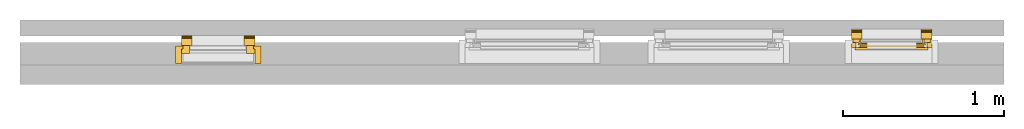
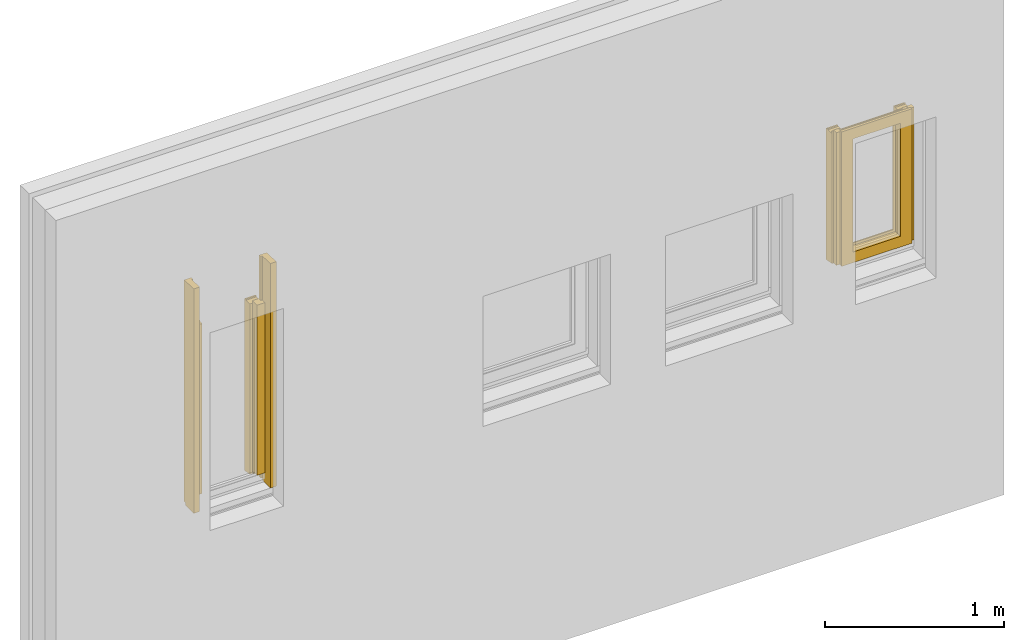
# One storey, part 4 of 4: 7 windows.
"""IFC2X3 building model written with IfcOpenShell, lengths in millimetres."""

from ifc_helpers import new_model, entity, si_unit, converted_unit, derived_unit, direction, frame, origin, place, context, subcontext, project, spatial, faceted_brep, source, transform, mapped, material, type_object, type_shapes, element, save


model = new_model("IFC2X3")

# Units and contexts
model_context = context("Model", 3, precision=0.01, world=origin(), true_north=direction((6.12303176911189e-17, 1.0)))
body_context = subcontext(model_context, "Body", "Model", "MODEL_VIEW")
ifc_project = project(units=[si_unit("LENGTHUNIT", "METRE", prefix="MILLI"), si_unit("AREAUNIT", "SQUARE_METRE"), si_unit("VOLUMEUNIT", "CUBIC_METRE"), converted_unit("PLANEANGLEUNIT", "DEGREE", entity("IfcRatioMeasure", 0.0174532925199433), si_unit("PLANEANGLEUNIT", "RADIAN"), dimensions=[0, 0, 0, 0, 0, 0, 0]), si_unit("MASSUNIT", "GRAM", prefix="KILO"), derived_unit("MASSDENSITYUNIT", [(si_unit("MASSUNIT", "GRAM", prefix="KILO"), 1), (si_unit("LENGTHUNIT", "METRE"), -3)]), si_unit("TIMEUNIT", "SECOND"), si_unit("FREQUENCYUNIT", "HERTZ"), si_unit("THERMODYNAMICTEMPERATUREUNIT", "DEGREE_CELSIUS"), derived_unit("THERMALTRANSMITTANCEUNIT", [(si_unit("MASSUNIT", "GRAM", prefix="KILO"), 1), (si_unit("THERMODYNAMICTEMPERATUREUNIT", "KELVIN"), -1), (si_unit("TIMEUNIT", "SECOND"), -3)]), derived_unit("VOLUMETRICFLOWRATEUNIT", [(si_unit("LENGTHUNIT", "METRE"), 3), (si_unit("TIMEUNIT", "SECOND"), -1)]), si_unit("ELECTRICCURRENTUNIT", "AMPERE"), si_unit("ELECTRICVOLTAGEUNIT", "VOLT"), si_unit("POWERUNIT", "WATT"), si_unit("FORCEUNIT", "NEWTON", prefix="KILO"), si_unit("ILLUMINANCEUNIT", "LUX"), si_unit("LUMINOUSFLUXUNIT", "LUMEN"), si_unit("LUMINOUSINTENSITYUNIT", "CANDELA"), derived_unit("USERDEFINED", [(si_unit("MASSUNIT", "GRAM", prefix="KILO"), -1), (si_unit("LENGTHUNIT", "METRE"), -2), (si_unit("TIMEUNIT", "SECOND"), 3), (si_unit("LUMINOUSFLUXUNIT", "LUMEN"), 1)]), derived_unit("LINEARVELOCITYUNIT", [(si_unit("LENGTHUNIT", "METRE"), 1), (si_unit("TIMEUNIT", "SECOND"), -1)]), si_unit("PRESSUREUNIT", "PASCAL"), derived_unit("USERDEFINED", [(si_unit("LENGTHUNIT", "METRE"), -2), (si_unit("MASSUNIT", "GRAM", prefix="KILO"), 1), (si_unit("TIMEUNIT", "SECOND"), -2)])], contexts=[model_context])

# Site, building, storey
site_placement = place(None, origin())
site = spatial("IfcSite", under=ifc_project, at=site_placement, Name="Default", CompositionType="ELEMENT")
building_placement = place(site_placement, origin())
building = spatial("IfcBuilding", under=site, at=building_placement, CompositionType="ELEMENT")
storey_placement = place(building_placement, origin())
storey = spatial("IfcBuildingStorey", under=building, at=storey_placement, Name="Level 1", CompositionType="ELEMENT", Elevation=0.0)

# Windows
ifc_material_1 = material(Name="NLRS_i3_meranti_geschilderd_RAL7006")
window_style_1 = type_object("IfcWindowStyle", Name="dv-bis67x114", ConstructionType="NOTDEFINED", OperationType="NOTDEFINED", ParameterTakesPrecedence=False, Sizeable=False, material=ifc_material_1)
shared_shape_1 = source(origin(), body_context, "Body", "Brep", [
    faceted_brep([(50.0, 84.0, 950.0), (50.0, 62.0, 950.0), (50.0, 62.0, 933.0), (50.0, 62.0, 49.2361111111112), (50.0, 72.0, 51.0), (50.0, 72.0, 67.0), (50.0, 84.0, 67.0), (67.0, 62.0, 933.0), (67.0, 62.0, 49.2361111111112), (67.0, 20.0, 933.0), (67.0, 17.0, 939.0), (67.0, 10.0, 939.0), (67.0, 7.0, 933.0), (67.0, 0.0, 933.0), (67.0, 0.0, 38.3000000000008), (0.0, 0.0, 933.0), (0.0, 0.0, 38.3000000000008), (0.0, 62.0, 950.0), (0.0, 65.0, 950.0), (0.0, 65.0, 49.7652777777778), (0.0, 7.0, 933.0), (0.0, 10.0, 939.0), (0.0, 17.0, 939.0), (0.0, 20.0, 933.0), (0.0, 62.0, 933.0), (9.0, 65.0, 950.0), (9.0, 65.0, 49.7652777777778), (9.0, 84.0, 950.0), (9.0, 84.0, 67.0), (9.0, 72.0, 67.0), (9.0, 72.0, 51.0), (30.0, 84.0, 950.0), (30.0, 84.0, 970.0), (0.0, 84.0, 970.0), (0.0, 84.0, 67.0), (0.0, 114.0, 970.0), (0.0, 114.0, 67.0), (30.0, 114.0, 970.0), (30.0, 114.0, 67.0), (30.0, 84.0, 67.0)], [[[0, 1, 2, 3, 4, 5, 6]], [[2, 7, 8, 3]], [[7, 9, 10, 11, 12, 13, 14, 8]], [[13, 15, 16, 14]], [[17, 18, 19, 16, 15, 20, 21, 22, 23, 24]], [[18, 25, 26, 19]], [[25, 27, 28, 29, 30, 26]], [[27, 31, 32, 33, 34, 28]], [[33, 35, 36, 34]], [[35, 37, 38, 36]], [[30, 4, 3, 8, 14, 16, 19, 26]], [[4, 30, 29, 5]], [[5, 29, 28, 34, 36, 38, 39, 6]], [[31, 0, 6, 39]], [[37, 32, 31, 39, 38]], [[35, 33, 32, 37]], [[17, 1, 0, 31, 27, 25, 18]], [[1, 17, 24, 2]], [[23, 9, 7, 2, 24]], [[9, 23, 22, 10]], [[10, 22, 21, 11]], [[11, 21, 20, 12]], [[12, 20, 15, 13]]]),
])
type_shapes(window_style_1, [shared_shape_1])
window_1_placement = place(storey_placement, frame((3042.97327063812, 5914.39645578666, 1685.12752334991), z_axis=(0.0, 0.0, 1.0), x_axis=(-1.0, 0.0, 0.0)))
element("IfcWindow", 1, at=window_1_placement, inside=storey, type_object=window_style_1, material=ifc_material_1, Name="NLRS_30_WIN_zijstijl_sh_gen_TOBA-JM:dv-bis67x114", ObjectType="NLRS_30_WIN_zijstijl_sh_gen_TOBA-JM:dv-bis67x114", OverallHeight=961.699999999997, OverallWidth=67.0000000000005, context=body_context, shape_type="MappedRepresentation", body=[
    mapped(shared_shape_1, transform((0.0, 0.0, 0.0), scale=1.0)),
])
window_style_2 = type_object("IfcWindowStyle", Name="dv-bis67x114", ConstructionType="NOTDEFINED", OperationType="NOTDEFINED", ParameterTakesPrecedence=False, Sizeable=False, material=ifc_material_1)
shared_shape_2 = source(origin(), body_context, "Body", "Brep", [
    faceted_brep([(50.0, -84.0, 950.0), (50.0, -84.0, 67.0), (50.0, -72.0, 67.0), (50.0, -72.0, 51.0), (50.0, -62.0, 49.2361111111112), (50.0, -62.0, 933.0), (50.0, -62.0, 950.0), (67.0, -62.0, 49.2361111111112), (67.0, -62.0, 933.0), (67.0, 0.0, 38.3000000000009), (67.0, 0.0, 933.0), (67.0, -7.0, 933.0), (67.0, -10.0, 939.0), (67.0, -17.0, 939.0), (67.0, -20.0, 933.0), (0.0, 0.0, 38.3000000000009), (0.0, 0.0, 933.0), (0.0, -62.0, 950.0), (0.0, -62.0, 933.0), (0.0, -20.0, 933.0), (0.0, -17.0, 939.0), (0.0, -10.0, 939.0), (0.0, -7.0, 933.0), (0.0, -65.0, 49.7652777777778), (0.0, -65.0, 950.0), (9.0, -65.0, 49.7652777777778), (9.0, -65.0, 950.0), (9.0, -72.0, 51.0), (9.0, -72.0, 67.0), (9.0, -84.0, 67.0), (9.0, -84.0, 950.0), (0.0, -84.0, 67.0), (0.0, -84.0, 970.0), (30.0, -84.0, 970.0), (30.0, -84.0, 950.0), (0.0, -114.0, 67.0), (0.0, -114.0, 970.0), (30.0, -114.0, 67.0), (30.0, -114.0, 970.0), (30.0, -84.0, 67.0)], [[[0, 1, 2, 3, 4, 5, 6]], [[5, 4, 7, 8]], [[8, 7, 9, 10, 11, 12, 13, 14]], [[10, 9, 15, 16]], [[17, 18, 19, 20, 21, 22, 16, 15, 23, 24]], [[24, 23, 25, 26]], [[26, 25, 27, 28, 29, 30]], [[30, 29, 31, 32, 33, 34]], [[32, 31, 35, 36]], [[36, 35, 37, 38]], [[27, 25, 23, 15, 9, 7, 4, 3]], [[3, 2, 28, 27]], [[2, 1, 39, 37, 35, 31, 29, 28]], [[34, 39, 1, 0]], [[38, 37, 39, 34, 33]], [[36, 38, 33, 32]], [[17, 24, 26, 30, 34, 0, 6]], [[6, 5, 18, 17]], [[19, 18, 5, 8, 14]], [[14, 13, 20, 19]], [[13, 12, 21, 20]], [[12, 11, 22, 21]], [[11, 10, 16, 22]]]),
])
type_shapes(window_style_2, [shared_shape_2])
window_2_placement = place(storey_placement, frame((2542.97327063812, 5914.39645578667, 1685.12752334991)))
element("IfcWindow", 2, at=window_2_placement, inside=storey, type_object=window_style_2, material=ifc_material_1, Name="NLRS_30_WIN_zijstijl_sh_gen_TOBA-JM:dv-bis67x114", ObjectType="NLRS_30_WIN_zijstijl_sh_gen_TOBA-JM:dv-bis67x114", OverallHeight=961.7, OverallWidth=67.0000000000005, context=body_context, shape_type="MappedRepresentation", body=[
    mapped(shared_shape_2, transform((0.0, 0.0, 0.0), scale=1.0)),
])
ifc_material_2 = material(Name="NLRS_i3_meranti_draaiende_delen_geschilderd_creme_RAL7006")
window_style_3 = type_object("IfcWindowStyle", Name="68x90", ConstructionType="NOTDEFINED", OperationType="NOTDEFINED", ParameterTakesPrecedence=False, Sizeable=False, material=ifc_material_2)
shared_shape_3 = source(origin(), body_context, "Body", "Brep", [
    faceted_brep([(226.0, 68.0, 909.0), (226.0, 52.0, 909.0), (226.0, 52.0, -6.0), (226.0, 68.0, -6.0), (226.0, 68.0, -5.0), (226.0, 68.0, 84.0), (-226.0, 52.0, -6.0), (-226.0, 52.0, 909.0), (-208.0, 52.0, 891.0), (208.0, 52.0, 891.0), (208.0, 52.0, 12.0), (-208.0, 52.0, 12.0), (-226.0, 68.0, -6.0), (-226.0, 68.0, 909.0), (-226.0, 68.0, -5.0), (-226.0, 68.0, 84.0), (153.0, 68.0, 836.0), (-153.0, 68.0, 836.0), (-153.0, 68.0, 67.0), (153.0, 68.0, 67.0), (153.0, 13.0, 836.0), (153.0, 13.0, 67.0), (-153.0, 13.0, 67.0), (-153.0, 13.0, 836.0), (136.0, 13.0, 819.0), (-136.0, 13.0, 819.0), (-136.0, 13.0, 84.0), (136.0, 13.0, 84.0), (140.0, 0.0, 823.0), (140.0, 0.0, 80.0), (-140.0, 0.0, 80.0), (196.0, 0.0, 27.0), (196.0, 0.0, 879.0), (-196.0, 0.0, 879.0), (-196.0, 0.0, 27.0), (-140.0, 0.0, 823.0), (196.0, 5.0, 879.0), (196.0, 4.0, 27.0), (196.0, 4.0, 15.0), (196.0, 5.0, 15.0), (-196.0, 4.0, 27.0), (-196.0, 4.0, 15.0), (-192.0, 9.0, 15.0), (192.0, 9.0, 15.0), (192.0, 6.0, 15.0), (-196.0, 5.0, 15.0), (-192.0, 6.0, 15.0), (192.0, 6.0, 875.0), (192.0, 16.0, 875.0), (192.0, 10.0, 19.0), (192.0, 16.0, 19.0), (-192.0, 10.0, 19.0), (-192.0, 16.0, 19.0), (196.0, 17.0, 879.0), (196.0, 17.0, 15.0), (-196.0, 17.0, 15.0), (196.0, 22.0, 879.0), (196.0, 22.0, 15.0), (-196.0, 22.0, 15.0), (-188.0, 22.0, 23.0), (188.0, 22.0, 23.0), (188.0, 22.0, 871.0), (-188.0, 22.0, 871.0), (-196.0, 22.0, 879.0), (188.0, 27.0, 871.0), (188.0, 27.0, 23.0), (-188.0, 27.0, 23.0), (208.0, 27.0, 12.0), (208.0, 27.0, 891.0), (-208.0, 27.0, 891.0), (-208.0, 27.0, 12.0), (-188.0, 27.0, 871.0), (208.0, 34.5, 891.0), (208.0, 34.5000000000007, 12.0), (-208.0, 34.5000000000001, 12.0), (-205.500000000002, 34.5, 14.5), (205.500000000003, 34.5000000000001, 14.5), (205.500000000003, 34.5, 888.499999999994), (-205.5, 34.5, 888.499999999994), (-208.0, 34.5, 891.0), (205.500000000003, 36.5, 888.499999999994), (205.500000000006, 36.5000000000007, 14.5), (-205.500000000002, 36.5000000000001, 14.5), (-196.0, 36.5, 24.0), (196.0, 36.5000000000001, 24.0), (196.0, 36.5, 879.0), (-196.0, 36.5, 879.0), (-205.500000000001, 36.5, 888.499999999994), (196.0, 49.0, 879.0), (196.0, 49.0, 24.0), (-196.0, 49.0, 24.0), (205.500000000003, 49.0, 14.5), (205.500000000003, 49.0, 888.499999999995), (-205.500000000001, 49.0, 888.499999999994), (-205.500000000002, 49.0, 14.5), (-196.0, 49.0, 879.0), (205.500000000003, 51.0, 888.499999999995), (205.500000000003, 51.0, 14.5), (-205.500000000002, 51.0, 14.5), (208.0, 51.0, 12.0), (208.0, 51.0, 891.0), (-208.0, 51.0, 891.0), (-208.0, 51.0, 12.0), (-205.500000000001, 51.0, 888.499999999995), (-196.0, 5.0, 879.0), (-192.0, 6.0, 875.0), (-192.0, 16.0, 875.0), (-196.0, 17.0, 879.0)], [[[0, 1, 2, 3, 4, 5]], [[6, 2, 1, 7], [8, 9, 10, 11]], [[6, 12, 3, 2]], [[13, 0, 5, 4, 3, 12, 14, 15], [16, 17, 18, 19]], [[20, 16, 19, 21]], [[19, 18, 22, 21]], [[23, 20, 21, 22], [24, 25, 26, 27]], [[28, 24, 27, 29]], [[27, 26, 30, 29]], [[31, 32, 33, 34], [35, 28, 29, 30]], [[36, 32, 31, 37, 38, 39]], [[31, 34, 40, 37]], [[41, 38, 37, 40]], [[42, 43, 44, 39, 38, 41, 45, 46]], [[47, 36, 39, 44]], [[48, 47, 44, 43, 49, 50]], [[51, 49, 43, 42]], [[52, 50, 49, 51]], [[53, 48, 50, 54]], [[55, 54, 50, 52]], [[56, 53, 54, 57]], [[58, 57, 54, 55]], [[59, 60, 61, 62], [58, 63, 56, 57]], [[64, 61, 60, 65]], [[66, 65, 60, 59]], [[67, 68, 69, 70], [66, 71, 64, 65]], [[72, 68, 67, 73]], [[74, 73, 67, 70]], [[75, 76, 77, 78], [74, 79, 72, 73]], [[80, 77, 76, 81]], [[82, 81, 76, 75]], [[83, 84, 85, 86], [82, 87, 80, 81]], [[88, 85, 84, 89]], [[90, 89, 84, 83]], [[91, 92, 93, 94], [90, 95, 88, 89]], [[96, 92, 91, 97]], [[98, 97, 91, 94]], [[99, 100, 101, 102], [98, 103, 96, 97]], [[9, 100, 99, 10]], [[11, 10, 99, 102]], [[102, 101, 8, 11]], [[6, 7, 13, 15, 14, 12]], [[17, 23, 22, 18]], [[25, 35, 30, 26]], [[33, 104, 45, 41, 40, 34]], [[45, 104, 105, 46]], [[46, 105, 106, 52, 51, 42]], [[52, 106, 107, 55]], [[55, 107, 63, 58]], [[59, 62, 71, 66]], [[70, 69, 79, 74]], [[75, 78, 87, 82]], [[83, 86, 95, 90]], [[94, 93, 103, 98]], [[1, 0, 13, 7]], [[16, 20, 23, 17]], [[24, 28, 35, 25]], [[32, 36, 104, 33]], [[36, 47, 105, 104]], [[47, 48, 106, 105]], [[48, 53, 107, 106]], [[53, 56, 63, 107]], [[61, 64, 71, 62]], [[68, 72, 79, 69]], [[77, 80, 87, 78]], [[85, 88, 95, 86]], [[92, 96, 103, 93]], [[100, 9, 8, 101]]], outer=[[True], [True, False], [True], [True, False], [True], [True], [True, False], [True], [True], [True, False], [True], [True], [True], [True], [True], [True], [True], [True], [True], [True], [True], [True], [False, True], [True], [True], [True, False], [True], [True], [False, True], [True], [True], [False, True], [True], [True], [True, False], [True], [True], [True, False], [True], [True], [True], [True], [True], [True], [True], [True], [True], [True], [True], [True], [True], [True], [True], [True], [True], [True], [True], [True], [True], [True], [True], [True], [True], [True], [True], [True], [True], [True]]),
])
type_shapes(window_style_3, [shared_shape_3])
window_3_placement = place(storey_placement, frame((2792.97327063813, 5852.39645578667, 1752.12752334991), z_axis=(0.0, 0.0, 1.0), x_axis=(-1.0, 0.0, 0.0)))
element("IfcWindow", 3, at=window_3_placement, inside=storey, type_object=window_style_3, material=ifc_material_2, Name="NLRS_30_WIN_raamhout_sh_gen_TOBA-JM:68x90", ObjectType="NLRS_30_WIN_raamhout_sh_gen_TOBA-JM:68x90", OverallHeight=914.999999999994, OverallWidth=452.000000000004, context=body_context, shape_type="MappedRepresentation", body=[
    mapped(shared_shape_3, transform((0.0, 0.0, 0.0), scale=1.0)),
])
window_style_4 = type_object("IfcWindowStyle", Name="Type", ConstructionType="NOTDEFINED", OperationType="NOTDEFINED", ParameterTakesPrecedence=False, Sizeable=False, material=ifc_material_1)
shared_shape_4 = source(origin(), body_context, "Body", "Brep", [
    faceted_brep([(50.0, 114.0, 1224.4), (50.0, 62.0, 1224.4), (50.0, 62.0, 1207.4), (50.0, 62.0, 49.2361111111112), (50.0, 72.0, 51.0), (50.0, 72.0, 67.0), (50.0, 114.0, 67.0), (67.0, 62.0, 1207.4), (67.0, 62.0, 49.2361111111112), (67.0, 20.0, 1207.4), (67.0, 17.0, 1213.4), (67.0, 10.0, 1213.4), (67.0, 7.0, 1207.4), (67.0, 0.0, 1207.4), (67.0, 0.0, 38.3000000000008), (0.0, 0.0, 1207.4), (0.0, 0.0, 38.3000000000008), (0.0, 62.0, 1224.4), (0.0, 65.0, 1224.4), (0.0, 65.0, 49.7652777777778), (0.0, 7.0, 1207.4), (0.0, 10.0, 1213.4), (0.0, 17.0, 1213.4), (0.0, 20.0, 1207.4), (0.0, 62.0, 1207.4), (9.0, 65.0, 1224.4), (9.0, 65.0, 49.7652777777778), (9.0, 84.0, 1224.4), (9.0, 84.0, 67.0), (9.0, 72.0, 67.0), (9.0, 72.0, 51.0), (0.0, 84.0, 1224.4), (0.0, 84.0, 67.0), (0.0, 114.0, 1224.4), (0.0, 114.0, 67.0)], [[[0, 1, 2, 3, 4, 5, 6]], [[2, 7, 8, 3]], [[7, 9, 10, 11, 12, 13, 14, 8]], [[13, 15, 16, 14]], [[17, 18, 19, 16, 15, 20, 21, 22, 23, 24]], [[18, 25, 26, 19]], [[25, 27, 28, 29, 30, 26]], [[27, 31, 32, 28]], [[31, 33, 34, 32]], [[33, 0, 6, 34]], [[30, 4, 3, 8, 14, 16, 19, 26]], [[4, 30, 29, 5]], [[5, 29, 28, 32, 34, 6]], [[17, 1, 0, 33, 31, 27, 25, 18]], [[1, 17, 24, 2]], [[23, 9, 7, 2, 24]], [[9, 23, 22, 10]], [[10, 22, 21, 11]], [[11, 21, 20, 12]], [[12, 20, 15, 13]]]),
])
type_shapes(window_style_4, [shared_shape_4])
window_4_placement = place(storey_placement, frame((-1155.38435228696, 5876.39645578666, 1592.60000000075), z_axis=(0.0, 0.0, 1.0), x_axis=(-1.0, 0.0, 0.0)))
element("IfcWindow", 4, at=window_4_placement, inside=storey, type_object=window_style_4, material=ifc_material_1, Name="NLRS_30_MC_zijstijll_vg_bis_67x114:Type", ObjectType="NLRS_30_MC_zijstijll_vg_bis_67x114:Type", OverallHeight=1274.4, OverallWidth=67.0000000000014, context=body_context, shape_type="MappedRepresentation", body=[
    mapped(shared_shape_4, transform((0.0, 0.0, 0.0), scale=1.0)),
])
window_style_5 = type_object("IfcWindowStyle", Name="Type", ConstructionType="NOTDEFINED", OperationType="NOTDEFINED", ParameterTakesPrecedence=False, Sizeable=False, material=ifc_material_1)
shared_shape_5 = source(origin(), body_context, "Body", "Brep", [
    faceted_brep([(50.0, -114.0, 1224.4), (50.0, -114.0, 67.0), (50.0, -72.0, 67.0), (50.0, -72.0, 51.0), (50.0, -62.0, 49.2361111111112), (50.0, -62.0, 1207.4), (50.0, -62.0, 1224.4), (67.0, -62.0, 49.2361111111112), (67.0, -62.0, 1207.4), (67.0, 0.0, 38.3000000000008), (67.0, 0.0, 1207.4), (67.0, -7.0, 1207.4), (67.0, -10.0, 1213.4), (67.0, -17.0, 1213.4), (67.0, -20.0, 1207.4), (0.0, 0.0, 38.3000000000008), (0.0, 0.0, 1207.4), (0.0, -62.0, 1224.4), (0.0, -62.0, 1207.4), (0.0, -20.0, 1207.4), (0.0, -17.0, 1213.4), (0.0, -10.0, 1213.4), (0.0, -7.0, 1207.4), (0.0, -65.0, 49.7652777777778), (0.0, -65.0, 1224.4), (9.0, -65.0, 49.7652777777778), (9.0, -65.0, 1224.4), (9.0, -72.0, 51.0), (9.0, -72.0, 67.0), (9.0, -84.0, 67.0), (9.0, -84.0, 1224.4), (0.0, -84.0, 67.0), (0.0, -84.0, 1224.4), (0.0, -114.0, 67.0), (0.0, -114.0, 1224.4)], [[[0, 1, 2, 3, 4, 5, 6]], [[5, 4, 7, 8]], [[8, 7, 9, 10, 11, 12, 13, 14]], [[10, 9, 15, 16]], [[17, 18, 19, 20, 21, 22, 16, 15, 23, 24]], [[24, 23, 25, 26]], [[26, 25, 27, 28, 29, 30]], [[30, 29, 31, 32]], [[32, 31, 33, 34]], [[34, 33, 1, 0]], [[27, 25, 23, 15, 9, 7, 4, 3]], [[3, 2, 28, 27]], [[2, 1, 33, 31, 29, 28]], [[17, 24, 26, 30, 32, 34, 0, 6]], [[6, 5, 18, 17]], [[19, 18, 5, 8, 14]], [[14, 13, 20, 19]], [[13, 12, 21, 20]], [[12, 11, 22, 21]], [[11, 10, 16, 22]]]),
])
type_shapes(window_style_5, [shared_shape_5])
window_5_placement = place(storey_placement, frame((-1610.38435228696, 5876.39645578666, 1592.60000000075)))
element("IfcWindow", 5, at=window_5_placement, inside=storey, type_object=window_style_5, material=ifc_material_1, Name="NLRS_30_MC_zijstijll_vg_bis_67x114:Type", ObjectType="NLRS_30_MC_zijstijll_vg_bis_67x114:Type", OverallHeight=1274.40000000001, OverallWidth=67.0000000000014, context=body_context, shape_type="MappedRepresentation", body=[
    mapped(shared_shape_5, transform((0.0, 0.0, 0.0), scale=1.0)),
])
ifc_material_3 = material(Name="NLRS_i3_hout_vuren_generiek")
window_style_6 = type_object("IfcWindowStyle", Name="Type", ConstructionType="NOTDEFINED", OperationType="NOTDEFINED", ParameterTakesPrecedence=False, Sizeable=False, material=ifc_material_3)
shared_shape_6 = source(origin(), body_context, "Body", "Brep", [
    faceted_brep([(-38.0, 110.0, 0.0), (0.0, 110.0, 0.0), (0.0, 19.0, 0.0), (-38.0, 19.0, 0.0), (-38.0, 110.0, 1527.4), (0.0, 110.0, 1527.4), (0.0, 100.459431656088, 1527.4), (0.0, 19.0, 1523.13089208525), (0.0, 19.0, 15.0), (9.0, 19.0, 15.0), (9.0, 19.0, 1523.13089208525), (9.0, 0.0, 15.0), (9.0, 0.0, 1522.13514427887), (-38.0, 0.0, 15.0), (-38.0, 0.0, 1522.13514427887), (-38.0, 19.0, 15.0), (-38.0, 100.459431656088, 1527.4)], [[[0, 1, 2, 3]], [[1, 0, 4, 5]], [[2, 1, 5, 6, 7, 8]], [[9, 8, 7, 10]], [[11, 9, 10, 12]], [[13, 11, 12, 14]], [[4, 0, 3, 15, 13, 14, 16]], [[5, 4, 16, 6]], [[8, 15, 3, 2]], [[15, 8, 9, 11, 13]], [[6, 16, 14, 12, 10, 7]]]),
])
type_shapes(window_style_6, [shared_shape_6])
window_6_placement = place(storey_placement, frame((-1155.38435228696, 5811.39645578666, 1592.60000000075), z_axis=(0.0, 0.0, 1.0), x_axis=(-1.0, 0.0, 0.0)))
element("IfcWindow", 6, at=window_6_placement, inside=storey, type_object=window_style_6, material=ifc_material_3, Name="NLRS_30_MC_spouwlat_zijstijll_47x110:Type", ObjectType="NLRS_30_MC_spouwlat_zijstijll_47x110:Type", OverallHeight=1527.4, OverallWidth=105.0, context=body_context, shape_type="MappedRepresentation", body=[
    mapped(shared_shape_6, transform((0.0, 0.0, 0.0), scale=1.0)),
])
window_style_7 = type_object("IfcWindowStyle", Name="Type", ConstructionType="NOTDEFINED", OperationType="NOTDEFINED", ParameterTakesPrecedence=False, Sizeable=False, material=ifc_material_3)
shared_shape_7 = source(origin(), body_context, "Body", "Brep", [
    faceted_brep([(-38.0, -110.0, 0.0), (-38.0, -19.0, 0.0), (0.0, -19.0, 0.0), (0.0, -110.0, 0.0), (0.0, -110.0, 1527.40000000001), (-38.0, -110.0, 1527.40000000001), (0.0, -19.0, 15.0), (0.0, -19.0, 1523.13089208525), (0.0, -100.459431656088, 1527.40000000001), (9.0, -19.0, 15.0), (9.0, -19.0, 1523.13089208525), (9.0, 0.0, 15.0), (9.0, 0.0, 1522.13514427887), (-38.0, 0.0, 15.0), (-38.0, 0.0, 1522.13514427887), (-38.0, -100.459431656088, 1527.40000000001), (-38.0, -19.0, 15.0)], [[[0, 1, 2, 3]], [[3, 4, 5, 0]], [[2, 6, 7, 8, 4, 3]], [[9, 10, 7, 6]], [[11, 12, 10, 9]], [[13, 14, 12, 11]], [[5, 15, 14, 13, 16, 1, 0]], [[4, 8, 15, 5]], [[6, 2, 1, 16]], [[16, 13, 11, 9, 6]], [[8, 7, 10, 12, 14, 15]]]),
])
type_shapes(window_style_7, [shared_shape_7])
window_7_placement = place(storey_placement, frame((-1610.38435228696, 5811.39645578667, 1592.60000000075)))
element("IfcWindow", 7, at=window_7_placement, inside=storey, type_object=window_style_7, material=ifc_material_3, Name="NLRS_30_MC_spouwlat_zijstijll_47x110:Type", ObjectType="NLRS_30_MC_spouwlat_zijstijll_47x110:Type", OverallHeight=1527.40000000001, OverallWidth=105.0, context=body_context, shape_type="MappedRepresentation", body=[
    mapped(shared_shape_7, transform((0.0, 0.0, 0.0), scale=1.0)),
])

save(model, "model.ifc")
